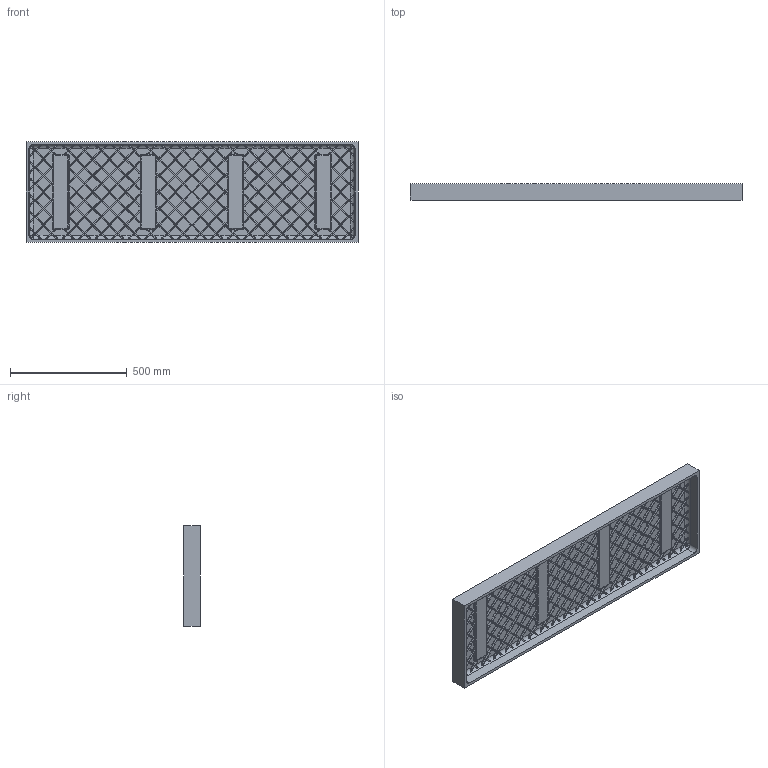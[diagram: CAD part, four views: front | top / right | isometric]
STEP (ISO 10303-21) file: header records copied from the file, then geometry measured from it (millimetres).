
FILE_DESCRIPTION (( 'STEP AP214' ), '1' );
FILE_NAME ('1771-931T-CLR OEM.STEP', '2009-10-08T14:29:29', ( ' ' ), ( ' ' ), 'SwSTEP 2.0', 'SolidWorks 2007', '' );
FILE_SCHEMA (( 'AUTOMOTIVE_DESIGN' ));
Length unit declared in the file: inch
Products named in the file (1): 1771-931T-CLR OEM
Bounding box: 1422.39 x 69.85 x 431.79 mm (x, y, z)
Volume: 12282258.7 mm3; surface area: 1961239.8 mm2
Topology: 1 solids, 1 shells, 5015 faces, 11676 edges, 6830 vertices
Faces by surface type: cylinder 2378, bspline 1364, plane 1273
Entity records: 254683 total; most frequent: CARTESIAN_POINT 85621, ORIENTED_EDGE 23352, DIRECTION 19758, EDGE_CURVE 11676, AXIS2_PLACEMENT_3D 7124, VERTEX_POINT 6830, LINE 5510, VECTOR 5510
